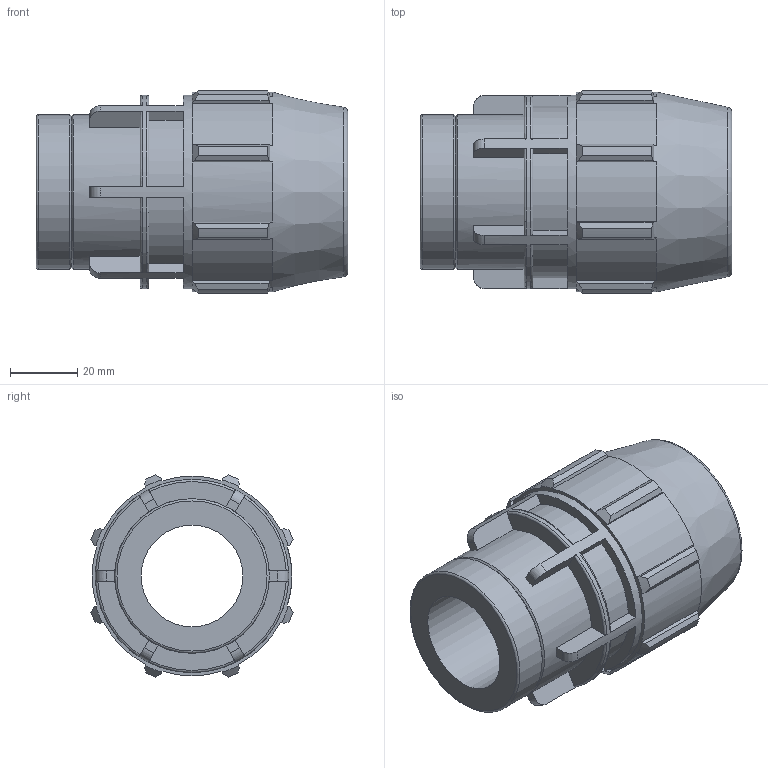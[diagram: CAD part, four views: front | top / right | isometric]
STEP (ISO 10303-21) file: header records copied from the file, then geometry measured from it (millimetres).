
FILE_DESCRIPTION(/* description */ ('PLASSON FEMALE ADAPTOR G 1'''' - 1''''F'),/* implementation_level */ '2;1');
FILE_NAME(/* name */ 'C:\Dropbox\KIMPROJECTS-Inventor 2019\99-16-3568-Processing Inch\ASTM Compression 2021\0703M0T\0703M0T10010.ipt.stp',/* time_stamp */ '2021-08-26T12:30:59+03:00',/* author */ ('KIM'),/* organization */ (''),/* preprocessor_version */ 'ST-DEVELOPER v17.2',/* originating_system */ 'Autodesk Inventor 2019',/* authorisation */ '');
FILE_SCHEMA (('AUTOMOTIVE_DESIGN { 1 0 10303 214 3 1 1 }'));
Length unit declared in the file: inch
Products named in the file (1): 0703M0T10010
Bounding box: 92.96 x 60.23 x 60.23 mm (x, y, z)
Volume: 130778.9 mm3; surface area: 31646.9 mm2
Topology: 1 solids, 1 shells, 155 faces, 441 edges, 298 vertices
Faces by surface type: plane 86, cylinder 28, cone 21, torus 20
Full cylindrical faces by diameter (mm): 30.291 x1, 31.635 x1, 33.3 x1, 46.086 x2, 57.607 x1
Entity records: 5552 total; most frequent: CARTESIAN_POINT 1283, ORIENTED_EDGE 882, DIRECTION 839, EDGE_CURVE 441, AXIS2_PLACEMENT_3D 310, VERTEX_POINT 298, LINE 219, VECTOR 219
